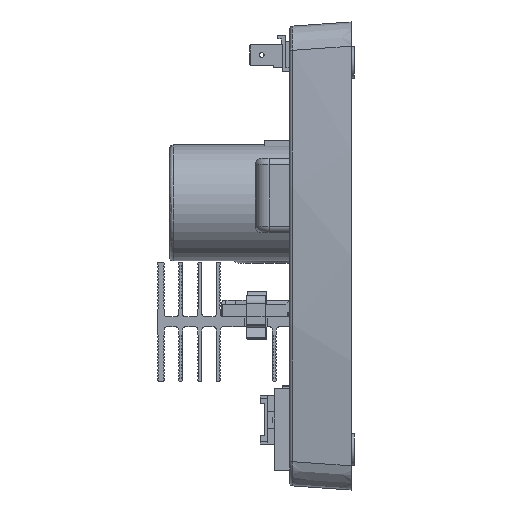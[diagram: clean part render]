
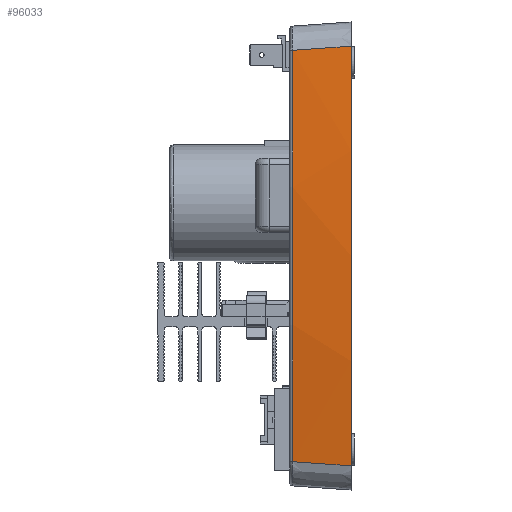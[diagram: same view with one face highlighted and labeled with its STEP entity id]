
A CAD part, left-side view. The second image highlights one B-rep face of the part: STEP entity #96033.
In plain terms, the highlighted conical face has half-angle 4 degrees and reference radius 471.874 mm.
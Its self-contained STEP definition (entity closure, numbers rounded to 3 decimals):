
#6045 = CARTESIAN_POINT ( 'NONE',  ( -84.407, 18.07, 63.731 ) ) ;
#10408 = DIRECTION ( 'NONE',  ( 0., 0., 1. ) ) ;
#17990 = EDGE_CURVE ( 'NONE', #88297, #65752, #23607, .T. ) ;
#18944 = CONICAL_SURFACE ( 'NONE', #31538, 471.874, 0.07 ) ;
#20422 = EDGE_CURVE ( 'NONE', #52294, #88297, #86112, .T. ) ;
#20526 = CARTESIAN_POINT ( 'NONE',  ( -85.506, 0., -65.015 ) ) ;
#21926 = ORIENTED_EDGE ( 'NONE', *, *, #50700, .T. ) ;
#23607 = CIRCLE ( 'NONE', #39964, 471.275 ) ;
#23715 = CARTESIAN_POINT ( 'NONE',  ( -85.506, 0., -65.015 ) ) ;
#23879 = CARTESIAN_POINT ( 'NONE',  ( -85.14, 6.023, 64.587 ) ) ;
#24574 = ORIENTED_EDGE ( 'NONE', *, *, #20422, .T. ) ;
#30520 = CARTESIAN_POINT ( 'NONE',  ( -85.506, 0., 65.015 ) ) ;
#30821 = FACE_OUTER_BOUND ( 'NONE', #83249, .T. ) ;
#31538 = AXIS2_PLACEMENT_3D ( 'NONE', #87216, #35278, #10408 ) ;
#33013 = CIRCLE ( 'NONE', #72539, 472.539 ) ;
#35278 = DIRECTION ( 'NONE',  ( 0., -1., 0. ) ) ;
#37532 = CARTESIAN_POINT ( 'NONE',  ( -85.14, 6.023, -64.587 ) ) ;
#39964 = AXIS2_PLACEMENT_3D ( 'NONE', #75674, #92363, #49299 ) ;
#48319 = CARTESIAN_POINT ( 'NONE',  ( -84.774, 12.047, 64.159 ) ) ;
#49299 = DIRECTION ( 'NONE',  ( 0., 0., -1. ) ) ;
#50700 = EDGE_CURVE ( 'NONE', #65752, #58355, #105564, .T. ) ;
#52294 = VERTEX_POINT ( 'NONE', #30520 ) ;
#54589 = CARTESIAN_POINT ( 'NONE',  ( -84.407, 18.07, -63.731 ) ) ;
#58355 = VERTEX_POINT ( 'NONE', #23715 ) ;
#63453 = ORIENTED_EDGE ( 'NONE', *, *, #17990, .T. ) ;
#64179 = DIRECTION ( 'NONE',  ( 0., 0., -1. ) ) ;
#65752 = VERTEX_POINT ( 'NONE', #103593 ) ;
#71290 = CARTESIAN_POINT ( 'NONE',  ( -84.774, 12.047, -64.159 ) ) ;
#72539 = AXIS2_PLACEMENT_3D ( 'NONE', #97238, #97973, #64179 ) ;
#73206 = ORIENTED_EDGE ( 'NONE', *, *, #89275, .F. ) ;
#74674 = CARTESIAN_POINT ( 'NONE',  ( -85.506, 0., 65.015 ) ) ;
#75674 = CARTESIAN_POINT ( 'NONE',  ( 382.539, 18.07, 0. ) ) ;
#83249 = EDGE_LOOP ( 'NONE', ( #21926, #73206, #24574, #63453 ) ) ;
#86112 = B_SPLINE_CURVE_WITH_KNOTS ( 'NONE', 3,
 ( #74674, #23879, #48319, #6045 ),
 .UNSPECIFIED., .F., .F.,
 ( 4, 4 ),
 ( 0., 0.018 ),
 .UNSPECIFIED. ) ;
#87216 = CARTESIAN_POINT ( 'NONE',  ( 382.539, 9.5, 0. ) ) ;
#88297 = VERTEX_POINT ( 'NONE', #109846 ) ;
#89275 = EDGE_CURVE ( 'NONE', #52294, #58355, #33013, .T. ) ;
#92363 = DIRECTION ( 'NONE',  ( 0., -1., 0. ) ) ;
#96033 = ADVANCED_FACE ( 'NONE', ( #30821 ), #18944, .T. ) ;
#97238 = CARTESIAN_POINT ( 'NONE',  ( 382.539, 0., 0. ) ) ;
#97973 = DIRECTION ( 'NONE',  ( 0., -1., 0. ) ) ;
#103593 = CARTESIAN_POINT ( 'NONE',  ( -84.407, 18.07, -63.731 ) ) ;
#105564 = B_SPLINE_CURVE_WITH_KNOTS ( 'NONE', 3,
 ( #54589, #71290, #37532, #20526 ),
 .UNSPECIFIED., .F., .F.,
 ( 4, 4 ),
 ( 0.001, 0.019 ),
 .UNSPECIFIED. ) ;
#109846 = CARTESIAN_POINT ( 'NONE',  ( -84.407, 18.07, 63.731 ) ) ;
